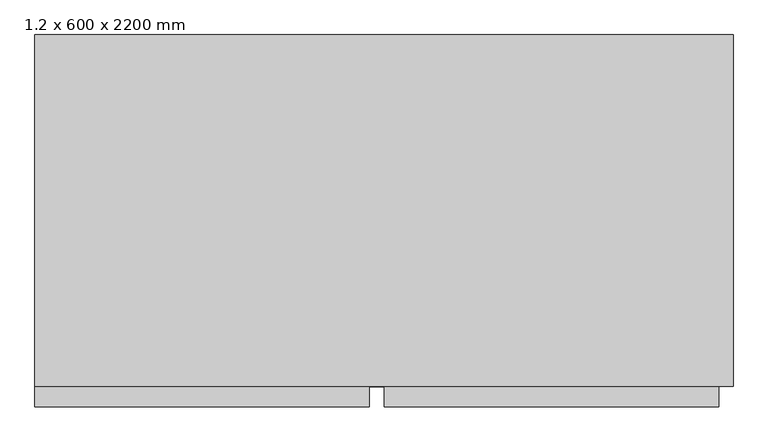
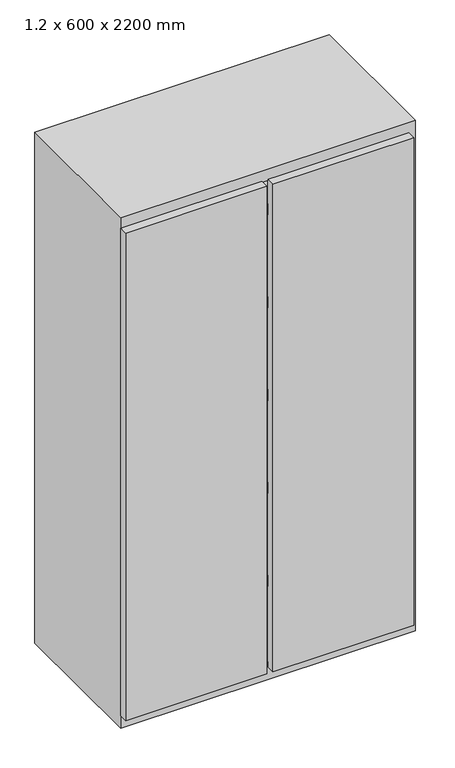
"""IFC4 building model written with IfcOpenShell, lengths in millimetres: furniture geometry, Shelved_closet_Armario_o_estanteria_Simple_y_paramtrico_14422 : 1.2 x 600 x 2200 mm."""

from ifc_helpers import new_model, si_unit, frame, origin, place, context, project, spatial, polyline, outline, extrude, faceted_brep, source, transform, mapped, element, save


def furniture_1_2_x_600_x_2200_mm_ee982ae5(model_context):
    return source(origin(), model_context, "Body", "SolidModel", [
        extrude(outline(polyline([(-199.2, -654.8), (-1299.2, -654.8), (-1299.2, -54.8), (-199.2, -54.8), (-199.2, -654.8)])), frame((0.0, 0.0, 2000.0), z_axis=(0.0, 0.0, 1.0), x_axis=(1.0, 0.0, 0.0)), (0.0, 0.0, 1.0), 50.0),
        extrude(outline(polyline([(-199.2, -654.8), (-1299.2, -654.8), (-1299.2, -54.8), (-199.2, -54.8), (-199.2, -654.8)])), frame((0.0, 0.0, 1600.0), z_axis=(0.0, 0.0, 1.0), x_axis=(1.0, 0.0, 0.0)), (0.0, 0.0, 1.0), 50.0),
        extrude(outline(polyline([(-199.2, -654.8), (-1299.2, -654.8), (-1299.2, -54.8), (-199.2, -54.8), (-199.2, -654.8)])), frame((0.0, 0.0, 1200.0), z_axis=(0.0, 0.0, 1.0), x_axis=(1.0, 0.0, 0.0)), (0.0, 0.0, 1.0), 50.0),
        extrude(outline(polyline([(-199.2, -654.8), (-1299.2, -654.8), (-1299.2, -54.8), (-199.2, -54.8), (-199.2, -654.8)])), frame((0.0, 0.0, 800.0), z_axis=(0.0, 0.0, 1.0), x_axis=(1.0, 0.0, 0.0)), (0.0, 0.0, 1.0), 50.0),
        extrude(outline(polyline([(-199.2, -654.8), (-1299.2, -654.8), (-1299.2, -54.8), (-199.2, -54.8), (-199.2, -654.8)])), frame((0.0, 0.0, 400.0), z_axis=(0.0, 0.0, 1.0), x_axis=(1.0, 0.0, 0.0)), (0.0, 0.0, 1.0), 50.0),
        extrude(outline(polyline([(-750.0, -654.8), (-175.0, -654.8), (-175.0, -689.8), (-750.0, -689.8), (-750.0, -654.8)])), frame((0.0, 0.0, 54.2), z_axis=(0.0, 0.0, 1.0), x_axis=(1.0, 0.0, 0.0)), (0.0, 0.0, 1.0), 2100.0),
        extrude(outline(polyline([(-1350.0, -654.8), (-775.0, -654.8), (-775.0, -689.8), (-1350.0, -689.8), (-1350.0, -654.8)])), frame((0.0, 0.0, 54.2), z_axis=(0.0, 0.0, 1.0), x_axis=(1.0, 0.0, 0.0)), (0.0, 0.0, 1.0), 2100.0),
        faceted_brep([(-150.0, -654.8, 0.0), (-150.0, -654.8, 2200.0), (-1350.0, -654.8, 2200.0), (-1350.0, -654.8, 0.0), (-200.8, -654.8, 2149.2), (-200.8, -654.8, 76.2), (-1299.2, -654.8, 76.2), (-1299.2, -654.8, 2149.2), (-150.0, -49.8, 0.0), (-150.0, -49.8, 2200.0), (-1350.0, -49.8, 2200.0), (-1350.0, -49.8, 0.0), (-200.8, -84.8, 2149.2), (-200.8, -84.8, 76.2), (-1299.2, -84.8, 76.2), (-1299.2, -84.8, 2149.2)], [[[0, 1, 2, 3], [4, 5, 6, 7]], [[1, 0, 8, 9]], [[2, 1, 9, 10]], [[3, 2, 10, 11]], [[8, 0, 3, 11]], [[5, 4, 12, 13]], [[7, 6, 14, 15]], [[4, 7, 15, 12]], [[6, 5, 13, 14]], [[13, 12, 15, 14]], [[10, 9, 8, 11]]]),
    ])


if __name__ == "__main__":
    model = new_model("IFC4")
    model_context = context("Model", 3, world=origin())
    ifc_project = project(units=[si_unit("LENGTHUNIT", "METRE", prefix="MILLI")], contexts=[model_context])
    site = spatial("IfcSite", under=ifc_project)
    building = spatial("IfcBuilding", under=site)
    placement = place(None, origin())
    furniture_1_2_x_600_x_2200_mm_shape = furniture_1_2_x_600_x_2200_mm_ee982ae5(model_context)
    element("IfcFurniture", 1, ObjectType="Shelved_closet_Armario_o_estanteria_Simple_y_paramtrico_14422 : 1.2 x 600 x 2200 mm", at=placement, inside=building, context=model_context, shape_type="MappedRepresentation", body=[
        mapped(furniture_1_2_x_600_x_2200_mm_shape, transform((0.0, 0.0, 0.0), x_axis=(1.0, 0.0, 0.0), y_axis=(0.0, 1.0, 0.0), z_axis=(0.0, 0.0, 1.0))),
    ])
    save(model, "model.ifc")
